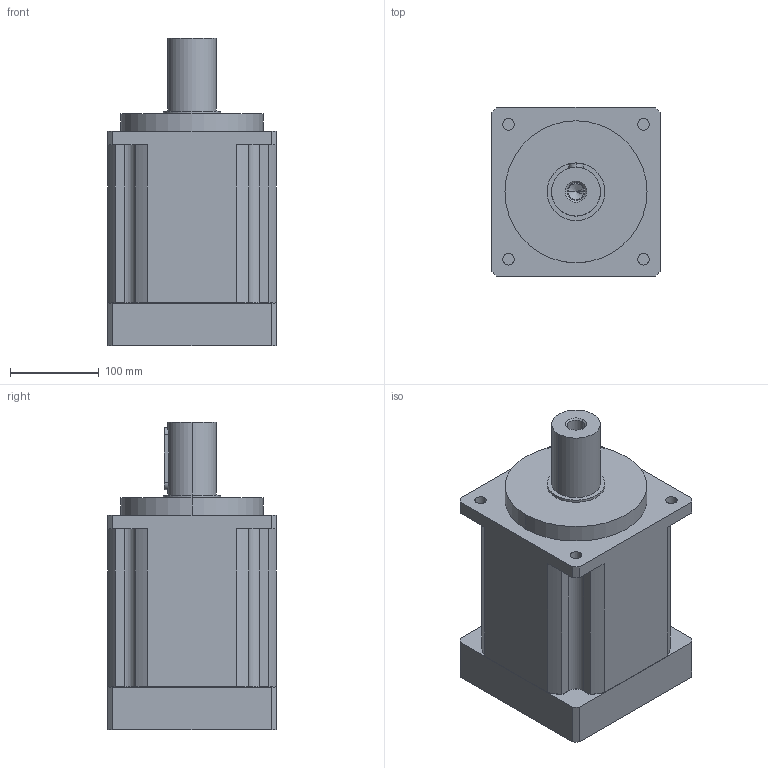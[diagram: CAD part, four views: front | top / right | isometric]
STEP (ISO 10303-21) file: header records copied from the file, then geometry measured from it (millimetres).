
FILE_DESCRIPTION (( 'STEP AP203' ), '1' );
FILE_NAME ('IB180L2-i-P2-S2-35-79-114.3-200-M12.STEP', '2016-01-04T12:38:40', ( 'User' ), ( 'china' ), 'SwSTEP 2.0', 'SolidWorks 2014', '' );
FILE_SCHEMA (( 'CONFIG_CONTROL_DESIGN' ));
Length unit declared in the file: millimetre
Products named in the file (1): IB180L2-i-P2-S2-35-79-114.3-200-M12
Bounding box: 190 x 190 x 346.5 mm (x, y, z)
Volume: 8395050.6 mm3; surface area: 295819.8 mm2
Topology: 1 solids, 1 shells, 133 faces, 321 edges, 197 vertices
Faces by surface type: cylinder 73, plane 36, cone 12, torus 12
Entity records: 4044 total; most frequent: CARTESIAN_POINT 813, DIRECTION 701, ORIENTED_EDGE 622, EDGE_CURVE 311, AXIS2_PLACEMENT_3D 275, VERTEX_POINT 197, EDGE_LOOP 158, VECTOR 151
